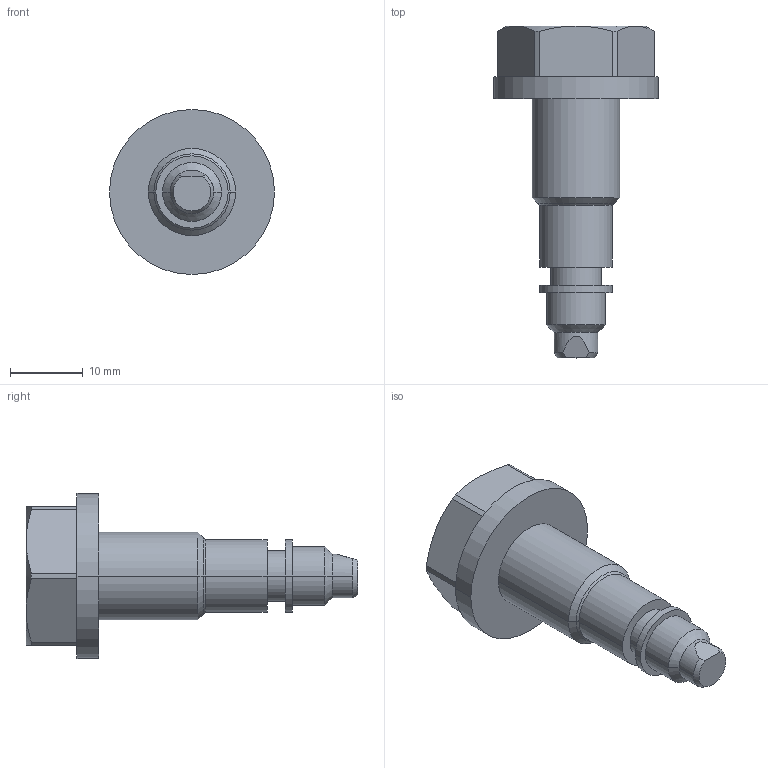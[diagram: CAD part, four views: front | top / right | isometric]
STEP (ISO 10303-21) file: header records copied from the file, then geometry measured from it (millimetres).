
FILE_DESCRIPTION((''),'2;1');
FILE_NAME('VSV','2014-08-22T',('j.koudelka'),(''),'PRO/ENGINEER BY PARAMETRIC TECHNOLOGY CORPORATION, 2014090','PRO/ENGINEER BY PARAMETRIC TECHNOLOGY CORPORATION, 2014090','');
FILE_SCHEMA(('AUTOMOTIVE_DESIGN { 1 0 10303 214 1 1 1 1 }'));
Length unit declared in the file: millimetre
Products named in the file (1): VSV
Bounding box: 22.7 x 45.65 x 22.7 mm (x, y, z)
Volume: 5875.8 mm3; surface area: 3655.6 mm2
Topology: 1 solids, 2 shells, 70 faces, 161 edges, 99 vertices
Faces by surface type: plane 27, cylinder 26, cone 17
Entity records: 2252 total; most frequent: CARTESIAN_POINT 563, DIRECTION 350, ORIENTED_EDGE 312, EDGE_CURVE 158, AXIS2_PLACEMENT_3D 141, VERTEX_POINT 97, EDGE_LOOP 77, FACE_OUTER_BOUND 70
